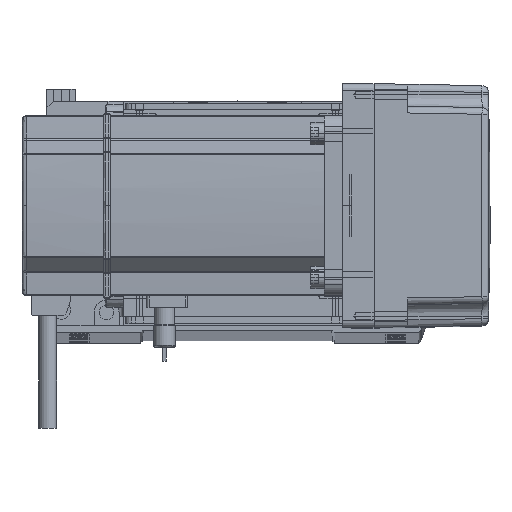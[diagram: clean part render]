
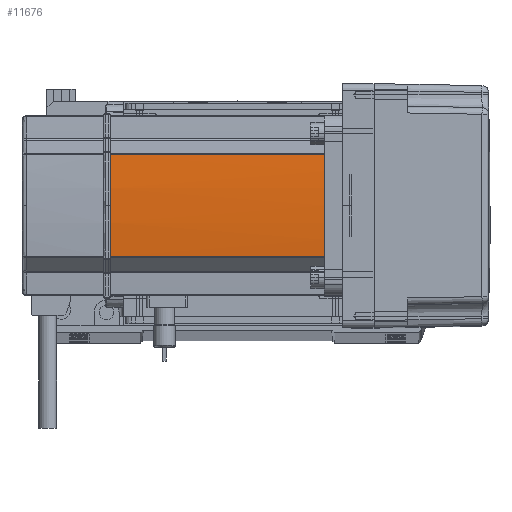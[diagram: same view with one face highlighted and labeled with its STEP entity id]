
A CAD part, top view. The second image highlights one B-rep face of the part: STEP entity #11676.
In plain terms, the highlighted cylindrical face has radius 270 mm (diameter 540 mm), a partial arc.
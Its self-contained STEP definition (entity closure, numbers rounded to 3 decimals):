
#1232 = CARTESIAN_POINT ( 'NONE',  ( -39.042, 22.724, 39. ) ) ;
#1601 = CARTESIAN_POINT ( 'NONE',  ( -39.042, 22.724, 0. ) ) ;
#1940 = DIRECTION ( 'NONE',  ( 1., 0., 0. ) ) ;
#2463 = CARTESIAN_POINT ( 'NONE',  ( 230., 0., 134. ) ) ;
#2978 = CARTESIAN_POINT ( 'NONE',  ( -39.042, -22.724, 0. ) ) ;
#3835 = DIRECTION ( 'NONE',  ( 0., 0., -1. ) ) ;
#4302 = LINE ( 'NONE', #1601, #33850 ) ;
#7124 = EDGE_LOOP ( 'NONE', ( #13028, #55278, #22420, #64229, #13696 ) ) ;
#7330 = CARTESIAN_POINT ( 'NONE',  ( 230., 0., 0. ) ) ;
#11676 = ADVANCED_FACE ( 'NONE', ( #33534 ), #28841, .T. ) ;
#13028 = ORIENTED_EDGE ( 'NONE', *, *, #17633, .T. ) ;
#13357 = CIRCLE ( 'NONE', #23490, 270. ) ;
#13696 = ORIENTED_EDGE ( 'NONE', *, *, #37667, .T. ) ;
#17196 = AXIS2_PLACEMENT_3D ( 'NONE', #28575, #3835, #18345 ) ;
#17633 = EDGE_CURVE ( 'NONE', #33420, #39353, #37180, .T. ) ;
#18345 = DIRECTION ( 'NONE',  ( 1., 0., 0. ) ) ;
#19813 = CARTESIAN_POINT ( 'NONE',  ( -39.042, -22.724, 39. ) ) ;
#20789 = CARTESIAN_POINT ( 'NONE',  ( -39.042, -22.724, 134. ) ) ;
#20834 = CARTESIAN_POINT ( 'NONE',  ( -40., 0., 134. ) ) ;
#22420 = ORIENTED_EDGE ( 'NONE', *, *, #57247, .T. ) ;
#22753 = AXIS2_PLACEMENT_3D ( 'NONE', #2463, #61497, #42657 ) ;
#23490 = AXIS2_PLACEMENT_3D ( 'NONE', #49096, #48530, #62808 ) ;
#27932 = DIRECTION ( 'NONE',  ( 0., 0., 1. ) ) ;
#28575 = CARTESIAN_POINT ( 'NONE',  ( 230., 0., 39. ) ) ;
#28841 = CYLINDRICAL_SURFACE ( 'NONE', #59489, 270. ) ;
#32151 = EDGE_CURVE ( 'NONE', #39353, #44974, #13357, .T. ) ;
#33420 = VERTEX_POINT ( 'NONE', #20789 ) ;
#33534 = FACE_OUTER_BOUND ( 'NONE', #7124, .T. ) ;
#33850 = VECTOR ( 'NONE', #55249, 1000. ) ;
#34879 = CIRCLE ( 'NONE', #17196, 270. ) ;
#35418 = LINE ( 'NONE', #2978, #40840 ) ;
#37180 = CIRCLE ( 'NONE', #22753, 270. ) ;
#37667 = EDGE_CURVE ( 'NONE', #38902, #33420, #35418, .T. ) ;
#38902 = VERTEX_POINT ( 'NONE', #19813 ) ;
#39353 = VERTEX_POINT ( 'NONE', #20834 ) ;
#40123 = EDGE_CURVE ( 'NONE', #38902, #58747, #34879, .T. ) ;
#40840 = VECTOR ( 'NONE', #27932, 1000. ) ;
#42657 = DIRECTION ( 'NONE',  ( 1., 0., 0. ) ) ;
#44974 = VERTEX_POINT ( 'NONE', #58679 ) ;
#48530 = DIRECTION ( 'NONE',  ( 0., 0., -1. ) ) ;
#49096 = CARTESIAN_POINT ( 'NONE',  ( 230., 0., 134. ) ) ;
#55249 = DIRECTION ( 'NONE',  ( 0., 0., -1. ) ) ;
#55278 = ORIENTED_EDGE ( 'NONE', *, *, #32151, .T. ) ;
#57247 = EDGE_CURVE ( 'NONE', #44974, #58747, #4302, .T. ) ;
#58679 = CARTESIAN_POINT ( 'NONE',  ( -39.042, 22.724, 134. ) ) ;
#58747 = VERTEX_POINT ( 'NONE', #1232 ) ;
#59489 = AXIS2_PLACEMENT_3D ( 'NONE', #7330, #62459, #1940 ) ;
#61497 = DIRECTION ( 'NONE',  ( 0., 0., -1. ) ) ;
#62459 = DIRECTION ( 'NONE',  ( 0., 0., 1. ) ) ;
#62808 = DIRECTION ( 'NONE',  ( 1., 0., 0. ) ) ;
#64229 = ORIENTED_EDGE ( 'NONE', *, *, #40123, .F. ) ;
